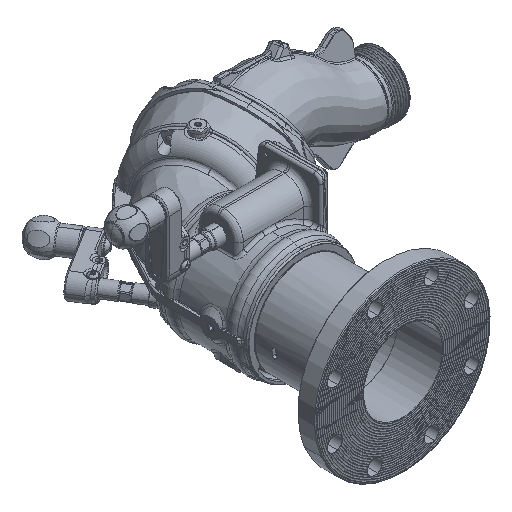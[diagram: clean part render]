
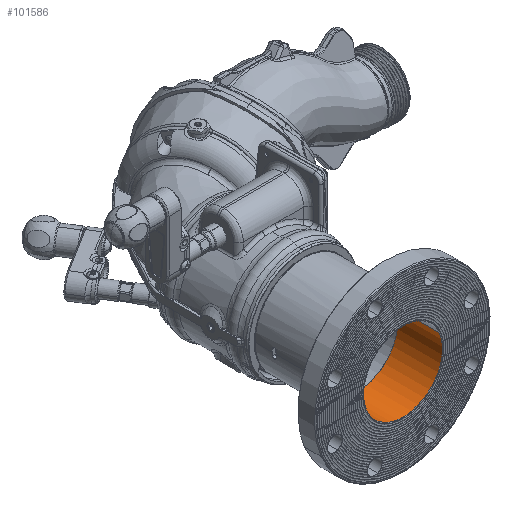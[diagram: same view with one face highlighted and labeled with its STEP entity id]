
A CAD part, isometric view. The second image highlights one B-rep face of the part: STEP entity #101586.
In plain terms, the highlighted cylindrical face has radius 50.8 mm (diameter 101.6 mm), a partial arc.
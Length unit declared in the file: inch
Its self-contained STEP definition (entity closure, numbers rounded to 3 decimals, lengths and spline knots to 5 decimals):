
#8365 = EDGE_CURVE ( 'NONE', #117851, #70395, #84451, .T. ) ;
#13969 = AXIS2_PLACEMENT_3D ( 'NONE', #66345, #47415, #111967 ) ;
#15117 = CYLINDRICAL_SURFACE ( 'NONE', #80274, 2. ) ;
#18237 = AXIS2_PLACEMENT_3D ( 'NONE', #100607, #109085, #26368 ) ;
#23234 = CIRCLE ( 'NONE', #13969, 2. ) ;
#24758 = CARTESIAN_POINT ( 'NONE',  ( 0., -9.59562, 0. ) ) ;
#26368 = DIRECTION ( 'NONE',  ( -0.383, 0., 0.924 ) ) ;
#27750 = EDGE_LOOP ( 'NONE', ( #63154, #103904, #110556, #104667, #111245 ) ) ;
#29566 = VECTOR ( 'NONE', #102835, 39.37008 ) ;
#32516 = DIRECTION ( 'NONE',  ( 0., 1., 0. ) ) ;
#37910 = CIRCLE ( 'NONE', #18237, 2. ) ;
#47415 = DIRECTION ( 'NONE',  ( 0., 1., 0. ) ) ;
#47534 = EDGE_CURVE ( 'NONE', #81242, #79560, #61294, .T. ) ;
#50914 = EDGE_CURVE ( 'NONE', #93823, #117851, #37910, .T. ) ;
#55626 = FACE_OUTER_BOUND ( 'NONE', #27750, .T. ) ;
#56940 = EDGE_CURVE ( 'NONE', #79560, #70395, #23234, .T. ) ;
#61294 = LINE ( 'NONE', #93552, #29566 ) ;
#63154 = ORIENTED_EDGE ( 'NONE', *, *, #66793, .F. ) ;
#63303 = DIRECTION ( 'NONE',  ( 0., 1., 0. ) ) ;
#66345 = CARTESIAN_POINT ( 'NONE',  ( 0., -7.3178, 0. ) ) ;
#66793 = EDGE_CURVE ( 'NONE', #81242, #93823, #116033, .T. ) ;
#70395 = VERTEX_POINT ( 'NONE', #118204 ) ;
#71937 = CARTESIAN_POINT ( 'NONE',  ( -1.84776, -9.59562, -0.76537 ) ) ;
#72490 = CARTESIAN_POINT ( 'NONE',  ( -1.84776, -6.81471, -0.76537 ) ) ;
#76796 = CARTESIAN_POINT ( 'NONE',  ( 1.84776, -7.3178, 0.76537 ) ) ;
#77301 = VECTOR ( 'NONE', #32516, 39.37008 ) ;
#79560 = VERTEX_POINT ( 'NONE', #76796 ) ;
#79640 = DIRECTION ( 'NONE',  ( -0.383, 0., 0.924 ) ) ;
#80200 = CARTESIAN_POINT ( 'NONE',  ( 1.84776, -9.59562, 0.76537 ) ) ;
#80274 = AXIS2_PLACEMENT_3D ( 'NONE', #100015, #63303, #112897 ) ;
#81242 = VERTEX_POINT ( 'NONE', #80200 ) ;
#84451 = LINE ( 'NONE', #72490, #77301 ) ;
#89729 = DIRECTION ( 'NONE',  ( 0., 1., 0. ) ) ;
#93552 = CARTESIAN_POINT ( 'NONE',  ( 1.84776, -6.81471, 0.76537 ) ) ;
#93823 = VERTEX_POINT ( 'NONE', #97194 ) ;
#97194 = CARTESIAN_POINT ( 'NONE',  ( 0.76537, -9.59562, -1.84776 ) ) ;
#100015 = CARTESIAN_POINT ( 'NONE',  ( 0., -6.81471, 0. ) ) ;
#100607 = CARTESIAN_POINT ( 'NONE',  ( 0., -9.59562, 0. ) ) ;
#101586 = ADVANCED_FACE ( 'NONE', ( #55626 ), #15117, .F. ) ;
#102835 = DIRECTION ( 'NONE',  ( 0., 1., 0. ) ) ;
#103904 = ORIENTED_EDGE ( 'NONE', *, *, #47534, .T. ) ;
#104667 = ORIENTED_EDGE ( 'NONE', *, *, #8365, .F. ) ;
#107607 = AXIS2_PLACEMENT_3D ( 'NONE', #24758, #89729, #79640 ) ;
#109085 = DIRECTION ( 'NONE',  ( 0., 1., 0. ) ) ;
#110556 = ORIENTED_EDGE ( 'NONE', *, *, #56940, .T. ) ;
#111245 = ORIENTED_EDGE ( 'NONE', *, *, #50914, .F. ) ;
#111967 = DIRECTION ( 'NONE',  ( -0.924, 0., -0.383 ) ) ;
#112897 = DIRECTION ( 'NONE',  ( -0.924, 0., -0.383 ) ) ;
#116033 = CIRCLE ( 'NONE', #107607, 2. ) ;
#117851 = VERTEX_POINT ( 'NONE', #71937 ) ;
#118204 = CARTESIAN_POINT ( 'NONE',  ( -1.84776, -7.3178, -0.76537 ) ) ;
